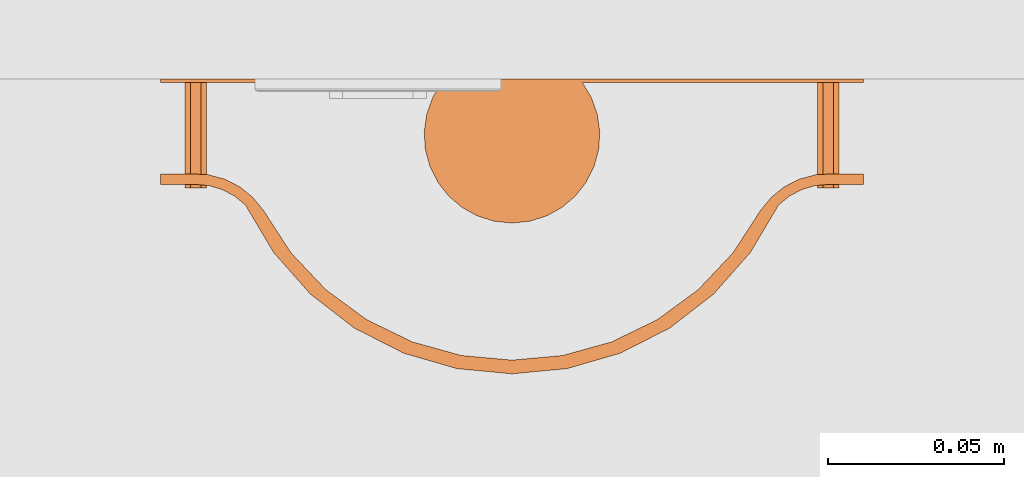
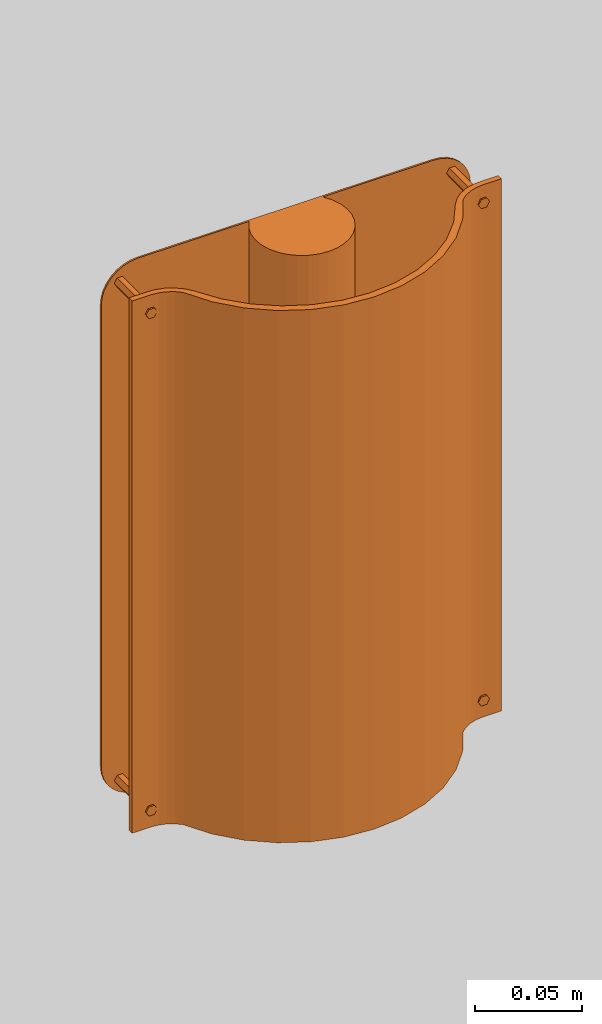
# One storey, part 33 of 48: 1 proxy.
"""IFC2X3 building model written with IfcOpenShell, lengths in inches."""

from ifc_helpers import new_model, entity, si_unit, converted_unit, derived_unit, money_unit, direction, frame, origin_with_axes, place, context, subcontext, project, spatial, faceted_brep, source, transform, mapped, type_object, element, save


model = new_model("IFC2X3")

# Units and contexts
model_context = context("Model", 3, precision=0.00039370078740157, world=origin_with_axes(), true_north=direction((0.0, 1.0)))
plan_context = context("Plan", 3, precision=0.00039370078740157, world=origin_with_axes(), true_north=direction((0.0, 1.0)))
body_context = subcontext(model_context, "Body", "Model", "MODEL_VIEW")
ifc_project = project(units=[converted_unit("LENGTHUNIT", "INCH", entity("IfcPositiveLengthMeasure", 0.0254), si_unit("LENGTHUNIT", "METRE"), dimensions=[1, 0, 0, 0, 0, 0, 0]), converted_unit("AREAUNIT", "SQUARE_FOOT", entity("IfcPositiveLengthMeasure", 0.09290304), si_unit("AREAUNIT", "SQUARE_METRE"), dimensions=[2, 0, 0, 0, 0, 0, 0]), si_unit("PLANEANGLEUNIT", "RADIAN"), si_unit("SOLIDANGLEUNIT", "STERADIAN"), money_unit("USD"), converted_unit("TIMEUNIT", "Year", entity("IfcTimeMeasure", 31557600.0), si_unit("TIMEUNIT", "SECOND"), dimensions=[0, 0, 1, 0, 0, 0, 0]), si_unit("MASSUNIT", "GRAM", prefix="KILO"), si_unit("THERMODYNAMICTEMPERATUREUNIT", "DEGREE_CELSIUS"), si_unit("LUMINOUSINTENSITYUNIT", "LUMEN"), si_unit("ENERGYUNIT", "JOULE", prefix="MEGA"), derived_unit("SPECIFICHEATCAPACITYUNIT", [(si_unit("ENERGYUNIT", "JOULE"), 1), (si_unit("MASSUNIT", "GRAM", prefix="KILO"), -1), (si_unit("THERMODYNAMICTEMPERATUREUNIT", "KELVIN"), -1)])], contexts=[model_context, plan_context])

# Site, building, storey
site_placement = place(None, origin_with_axes())
site = spatial("IfcSite", under=ifc_project, at=site_placement, Name="Site", CompositionType="ELEMENT")
building_placement = place(site_placement, origin_with_axes())
building = spatial("IfcBuilding", under=site, at=building_placement, Name="Building", CompositionType="ELEMENT")
storey_placement = place(building_placement, origin_with_axes())
storey = spatial("IfcBuildingStorey", under=building, at=storey_placement, Name="First Floor", CompositionType="ELEMENT", Elevation=0.0)

# Proxy
building_element_proxy_type = type_object("IfcBuildingElementProxyType", Name="Wall Lamp", PredefinedType="NOTDEFINED")
shared_shape = source(origin_with_axes(), body_context, "Body", "Brep", [
    faceted_brep([(3.9370078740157, -1.062992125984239, 0.0), (3.591991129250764, -1.063143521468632, 0.0), (3.591991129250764, -1.063143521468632, 11.99999999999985), (3.9370078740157, -1.062992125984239, 11.99999999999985), (3.9370078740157, -1.18110236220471, 0.0), (3.54330708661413, -1.18110236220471, 0.0), (3.389692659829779, -1.196232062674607, 0.0), (3.241981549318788, -1.241039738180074, 0.0), (3.105850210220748, -1.31380345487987, 0.0), (2.986530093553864, -1.411726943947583, 0.0), (2.669665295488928, -1.945564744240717, 0.0), (2.258517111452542, -2.410691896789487, 0.0), (1.767605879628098, -2.790681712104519, 0.0), (1.214268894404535, -3.072114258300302, 0.0), (0.6180481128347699, -3.245050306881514, 0.0), (0.0, -3.30338235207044, 0.0), (0.0, -3.14960629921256, 0.0), (0.5658852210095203, -3.098353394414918, 0.0), (1.113353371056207, -2.946262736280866, 0.0), (1.624586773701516, -2.698284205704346, 0.0), (2.082947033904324, -2.362488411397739, 0.0), (2.47351654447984, -1.949804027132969, 0.0), (2.783583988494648, -1.473662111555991, 0.0), (2.903069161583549, -1.326520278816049, 0.0), (3.050535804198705, -1.207436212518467, 0.0), (3.219538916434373, -1.121614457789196, 0.0), (3.402692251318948, -1.072805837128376, 0.0), (3.402692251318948, -1.072805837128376, 11.99999999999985), (3.219538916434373, -1.121614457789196, 11.99999999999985), (3.050535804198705, -1.207436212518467, 11.99999999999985), (2.903069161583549, -1.326520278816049, 11.99999999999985), (2.783583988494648, -1.473662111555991, 11.99999999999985), (2.47351654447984, -1.949804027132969, 11.99999999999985), (2.082947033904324, -2.362488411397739, 11.99999999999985), (1.624586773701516, -2.698284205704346, 11.99999999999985), (1.113353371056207, -2.946262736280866, 11.99999999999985), (0.5658852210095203, -3.098353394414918, 11.99999999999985), (0.0, -3.14960629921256, 11.99999999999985), (0.0, -3.30338235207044, 11.99999999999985), (0.6180481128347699, -3.245050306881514, 11.99999999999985), (1.214268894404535, -3.072114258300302, 11.99999999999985), (1.767605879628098, -2.790681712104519, 11.99999999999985), (2.258517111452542, -2.410691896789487, 11.99999999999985), (2.669665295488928, -1.945564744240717, 11.99999999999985), (2.986530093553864, -1.411726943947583, 11.99999999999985), (3.105850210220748, -1.31380345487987, 11.99999999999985), (3.241981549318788, -1.241039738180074, 11.99999999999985), (3.389692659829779, -1.196232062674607, 11.99999999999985), (3.54330708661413, -1.18110236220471, 11.99999999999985), (3.9370078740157, -1.18110236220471, 11.99999999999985)], [[[0, 1, 2, 3]], [[0, 4, 5, 6, 7, 8, 9, 10, 11, 12, 13, 14, 15, 16, 17, 18, 19, 20, 21, 22, 23, 24, 25, 26, 1]], [[1, 26, 27, 2]], [[3, 2, 27, 28, 29, 30, 31, 32, 33, 34, 35, 36, 37, 38, 39, 40, 41, 42, 43, 44, 45, 46, 47, 48, 49]], [[4, 0, 3, 49]], [[5, 4, 49, 48]], [[6, 5, 48, 47]], [[7, 6, 47, 46]], [[8, 7, 46, 45]], [[9, 8, 45, 44]], [[10, 9, 44, 43]], [[11, 10, 43, 42]], [[12, 11, 42, 41]], [[13, 12, 41, 40]], [[14, 13, 40, 39]], [[15, 14, 39, 38]], [[16, 15, 38, 37]], [[17, 16, 37, 36]], [[18, 17, 36, 35]], [[19, 18, 35, 34]], [[20, 19, 34, 33]], [[21, 20, 33, 32]], [[22, 21, 32, 31]], [[23, 22, 31, 30]], [[24, 23, 30, 29]], [[25, 24, 29, 28]], [[26, 25, 28, 27]]]),
    faceted_brep([(-3.9370078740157, -1.062992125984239, 0.0), (-3.9370078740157, -1.062992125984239, 11.99999999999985), (-3.591991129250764, -1.063143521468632, 11.99999999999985), (-3.591991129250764, -1.063143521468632, 0.0), (-3.9370078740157, -1.18110236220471, 0.0), (-3.9370078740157, -1.18110236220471, 11.99999999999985), (-3.54330708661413, -1.18110236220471, 11.99999999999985), (-3.389692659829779, -1.196232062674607, 11.99999999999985), (-3.241981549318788, -1.241039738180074, 11.99999999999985), (-3.105850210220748, -1.31380345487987, 11.99999999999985), (-2.986530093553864, -1.411726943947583, 11.99999999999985), (-2.669665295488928, -1.945564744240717, 11.99999999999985), (-2.258517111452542, -2.410691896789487, 11.99999999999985), (-1.767605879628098, -2.790681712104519, 11.99999999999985), (-1.214268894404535, -3.072114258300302, 11.99999999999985), (-0.6180481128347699, -3.245050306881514, 11.99999999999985), (0.0, -3.30338235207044, 11.99999999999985), (0.0, -3.14960629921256, 11.99999999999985), (-0.5658852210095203, -3.098353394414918, 11.99999999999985), (-1.113353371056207, -2.946262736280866, 11.99999999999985), (-1.624586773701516, -2.698284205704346, 11.99999999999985), (-2.082947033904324, -2.362488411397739, 11.99999999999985), (-2.47351654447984, -1.949804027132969, 11.99999999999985), (-2.783583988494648, -1.473662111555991, 11.99999999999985), (-2.903069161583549, -1.326520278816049, 11.99999999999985), (-3.050535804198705, -1.207436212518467, 11.99999999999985), (-3.219538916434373, -1.121614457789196, 11.99999999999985), (-3.402692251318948, -1.072805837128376, 11.99999999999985), (-3.402692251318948, -1.072805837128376, 0.0), (-3.219538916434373, -1.121614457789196, 0.0), (-3.050535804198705, -1.207436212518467, 0.0), (-2.903069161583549, -1.326520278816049, 0.0), (-2.783583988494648, -1.473662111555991, 0.0), (-2.47351654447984, -1.949804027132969, 0.0), (-2.082947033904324, -2.362488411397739, 0.0), (-1.624586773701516, -2.698284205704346, 0.0), (-1.113353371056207, -2.946262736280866, 0.0), (-0.5658852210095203, -3.098353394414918, 0.0), (0.0, -3.14960629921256, 0.0), (0.0, -3.30338235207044, 0.0), (-0.6180481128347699, -3.245050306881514, 0.0), (-1.214268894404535, -3.072114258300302, 0.0), (-1.767605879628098, -2.790681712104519, 0.0), (-2.258517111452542, -2.410691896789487, 0.0), (-2.669665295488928, -1.945564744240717, 0.0), (-2.986530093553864, -1.411726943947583, 0.0), (-3.105850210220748, -1.31380345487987, 0.0), (-3.241981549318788, -1.241039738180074, 0.0), (-3.389692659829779, -1.196232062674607, 0.0), (-3.54330708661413, -1.18110236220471, 0.0)], [[[0, 1, 2, 3]], [[4, 5, 1, 0]], [[1, 5, 6, 7, 8, 9, 10, 11, 12, 13, 14, 15, 16, 17, 18, 19, 20, 21, 22, 23, 24, 25, 26, 27, 2]], [[3, 2, 27, 28]], [[0, 3, 28, 29, 30, 31, 32, 33, 34, 35, 36, 37, 38, 39, 40, 41, 42, 43, 44, 45, 46, 47, 48, 49, 4]], [[49, 6, 5, 4]], [[48, 7, 6, 49]], [[47, 8, 7, 48]], [[46, 9, 8, 47]], [[45, 10, 9, 46]], [[44, 11, 10, 45]], [[43, 12, 11, 44]], [[42, 13, 12, 43]], [[41, 14, 13, 42]], [[40, 15, 14, 41]], [[39, 16, 15, 40]], [[38, 17, 16, 39]], [[37, 18, 17, 38]], [[36, 19, 18, 37]], [[35, 20, 19, 36]], [[34, 21, 20, 35]], [[33, 22, 21, 34]], [[32, 23, 22, 33]], [[31, 24, 23, 32]], [[30, 25, 24, 31]], [[29, 26, 25, 30]], [[28, 27, 26, 29]]]),
    faceted_brep([(3.14960629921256, 0.0, 0.0), (3.14960629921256, -0.039370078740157, 0.0), (-3.14960629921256, -0.039370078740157, 0.0), (-3.14960629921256, 0.0, 0.0), (3.303220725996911, 0.0, 0.01512970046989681), (3.303220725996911, -0.039370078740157, 0.01512970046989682), (3.450931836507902, -0.039370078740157, 0.05993737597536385), (3.587063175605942, -0.03937007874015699, 0.1327010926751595), (3.706383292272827, -0.03937007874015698, 0.230624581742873), (3.80430678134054, -0.03937007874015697, 0.3499446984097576), (3.877070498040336, -0.03937007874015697, 0.4860760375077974), (3.921878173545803, -0.03937007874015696, 0.633787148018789), (3.9370078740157, -0.03937007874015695, 0.78740157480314), (3.9370078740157, -0.03937007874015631, 11.21259842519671), (3.921878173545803, -0.0393700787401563, 11.36621285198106), (3.877070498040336, -0.03937007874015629, 11.51392396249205), (3.80430678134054, -0.03937007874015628, 11.65005530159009), (3.706383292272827, -0.03937007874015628, 11.76937541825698), (3.587063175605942, -0.03937007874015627, 11.86729890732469), (3.450931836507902, -0.03937007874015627, 11.94006262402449), (3.30322072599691, -0.03937007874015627, 11.98487029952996), (3.14960629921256, -0.03937007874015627, 11.99999999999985), (-3.14960629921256, -0.03937007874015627, 11.99999999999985), (-3.30322072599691, -0.03937007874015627, 11.98487029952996), (-3.450931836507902, -0.03937007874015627, 11.94006262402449), (-3.587063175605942, -0.03937007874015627, 11.86729890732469), (-3.706383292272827, -0.03937007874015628, 11.76937541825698), (-3.80430678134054, -0.03937007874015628, 11.65005530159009), (-3.877070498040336, -0.03937007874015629, 11.51392396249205), (-3.921878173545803, -0.0393700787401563, 11.36621285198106), (-3.9370078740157, -0.03937007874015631, 11.21259842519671), (-3.9370078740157, -0.03937007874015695, 0.7874015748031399), (-3.921878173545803, -0.03937007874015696, 0.6337871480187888), (-3.877070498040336, -0.03937007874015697, 0.4860760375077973), (-3.80430678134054, -0.03937007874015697, 0.3499446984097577), (-3.706383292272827, -0.03937007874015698, 0.2306245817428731), (-3.587063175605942, -0.03937007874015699, 0.1327010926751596), (-3.450931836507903, -0.039370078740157, 0.05993737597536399), (-3.303220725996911, -0.039370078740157, 0.01512970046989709), (-3.303220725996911, 0.0, 0.01512970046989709), (-3.450931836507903, 0.0, 0.05993737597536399), (-3.587063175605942, 0.0, 0.1327010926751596), (-3.706383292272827, 0.0, 0.2306245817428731), (-3.80430678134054, 0.0, 0.3499446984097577), (-3.877070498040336, 0.0, 0.4860760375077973), (-3.921878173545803, 0.0, 0.6337871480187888), (-3.9370078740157, 0.0, 0.7874015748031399), (-3.9370078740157, 0.0, 11.21259842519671), (-3.921878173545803, 0.0, 11.36621285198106), (-3.877070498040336, 0.0, 11.51392396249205), (-3.80430678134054, 0.0, 11.65005530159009), (-3.706383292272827, 0.0, 11.76937541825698), (-3.587063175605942, 0.0, 11.86729890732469), (-3.450931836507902, 0.0, 11.94006262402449), (-3.30322072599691, 0.0, 11.98487029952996), (-3.14960629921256, 0.0, 11.99999999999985), (3.14960629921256, 0.0, 11.99999999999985), (3.30322072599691, 0.0, 11.98487029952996), (3.450931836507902, 0.0, 11.94006262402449), (3.587063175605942, 0.0, 11.86729890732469), (3.706383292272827, 0.0, 11.76937541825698), (3.80430678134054, 0.0, 11.65005530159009), (3.877070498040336, 0.0, 11.51392396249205), (3.921878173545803, 0.0, 11.36621285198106), (3.9370078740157, 0.0, 11.21259842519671), (3.9370078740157, 0.0, 0.78740157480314), (3.921878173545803, 0.0, 0.633787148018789), (3.877070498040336, 0.0, 0.4860760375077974), (3.80430678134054, 0.0, 0.3499446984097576), (3.706383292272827, 0.0, 0.230624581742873), (3.587063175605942, 0.0, 0.1327010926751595), (3.450931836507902, 0.0, 0.05993737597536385)], [[[0, 1, 2, 3]], [[4, 5, 1, 0]], [[1, 5, 6, 7, 8, 9, 10, 11, 12, 13, 14, 15, 16, 17, 18, 19, 20, 21, 22, 23, 24, 25, 26, 27, 28, 29, 30, 31, 32, 33, 34, 35, 36, 37, 38, 2]], [[3, 2, 38, 39]], [[0, 3, 39, 40, 41, 42, 43, 44, 45, 46, 47, 48, 49, 50, 51, 52, 53, 54, 55, 56, 57, 58, 59, 60, 61, 62, 63, 64, 65, 66, 67, 68, 69, 70, 71, 4]], [[71, 6, 5, 4]], [[70, 7, 6, 71]], [[69, 8, 7, 70]], [[68, 9, 8, 69]], [[67, 10, 9, 68]], [[66, 11, 10, 67]], [[65, 12, 11, 66]], [[64, 13, 12, 65]], [[63, 14, 13, 64]], [[62, 15, 14, 63]], [[61, 16, 15, 62]], [[60, 17, 16, 61]], [[59, 18, 17, 60]], [[58, 19, 18, 59]], [[57, 20, 19, 58]], [[56, 21, 20, 57]], [[55, 22, 21, 56]], [[54, 23, 22, 55]], [[53, 24, 23, 54]], [[52, 25, 24, 53]], [[51, 26, 25, 52]], [[50, 27, 26, 51]], [[49, 28, 27, 50]], [[48, 29, 28, 49]], [[47, 30, 29, 48]], [[46, 31, 30, 47]], [[45, 32, 31, 46]], [[44, 33, 32, 45]], [[43, 34, 33, 44]], [[42, 35, 34, 43]], [[41, 36, 35, 42]], [[40, 37, 36, 41]], [[39, 38, 37, 40]]]),
    faceted_brep([(3.661417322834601, -0.03937007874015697, 0.39370078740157), (3.602362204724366, -0.03937007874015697, 0.4959872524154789), (3.602362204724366, -1.220472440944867, 0.495987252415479), (3.661417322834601, -1.220472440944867, 0.3937007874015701), (3.602362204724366, -0.03937007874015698, 0.291414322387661), (3.484251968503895, -0.03937007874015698, 0.2914143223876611), (3.425196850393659, -0.03937007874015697, 0.3937007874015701), (3.484251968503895, -0.03937007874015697, 0.495987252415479), (3.484251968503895, -1.220472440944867, 0.495987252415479), (3.425196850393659, -1.220472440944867, 0.3937007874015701), (3.484251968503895, -1.220472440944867, 0.2914143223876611), (3.602362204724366, -1.220472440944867, 0.2914143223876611)], [[[0, 1, 2, 3]], [[0, 4, 5, 6, 7, 1]], [[1, 7, 8, 2]], [[3, 2, 8, 9, 10, 11]], [[4, 0, 3, 11]], [[5, 4, 11, 10]], [[6, 5, 10, 9]], [[7, 6, 9, 8]]]),
    faceted_brep([(-3.425196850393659, -0.03937007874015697, 0.39370078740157), (-3.484251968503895, -0.03937007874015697, 0.4959872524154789), (-3.484251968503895, -1.220472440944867, 0.495987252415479), (-3.425196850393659, -1.220472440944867, 0.3937007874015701), (-3.484251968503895, -0.03937007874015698, 0.291414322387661), (-3.602362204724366, -0.03937007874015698, 0.2914143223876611), (-3.661417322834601, -0.03937007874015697, 0.3937007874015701), (-3.602362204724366, -0.03937007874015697, 0.495987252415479), (-3.602362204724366, -1.220472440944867, 0.495987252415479), (-3.661417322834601, -1.220472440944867, 0.3937007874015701), (-3.602362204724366, -1.220472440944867, 0.2914143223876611), (-3.484251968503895, -1.220472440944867, 0.2914143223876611)], [[[0, 1, 2, 3]], [[0, 4, 5, 6, 7, 1]], [[1, 7, 8, 2]], [[3, 2, 8, 9, 10, 11]], [[4, 0, 3, 11]], [[5, 4, 11, 10]], [[6, 5, 10, 9]], [[7, 6, 9, 8]]]),
    faceted_brep([(3.661417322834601, -0.03937007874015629, 11.60629921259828), (3.602362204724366, -0.03937007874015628, 11.70858567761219), (3.602362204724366, -1.220472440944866, 11.70858567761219), (3.661417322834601, -1.220472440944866, 11.60629921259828), (3.602362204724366, -0.03937007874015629, 11.50401274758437), (3.484251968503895, -0.03937007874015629, 11.50401274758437), (3.425196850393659, -0.03937007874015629, 11.60629921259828), (3.484251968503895, -0.03937007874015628, 11.70858567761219), (3.484251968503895, -1.220472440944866, 11.70858567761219), (3.425196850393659, -1.220472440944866, 11.60629921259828), (3.484251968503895, -1.220472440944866, 11.50401274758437), (3.602362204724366, -1.220472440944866, 11.50401274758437)], [[[0, 1, 2, 3]], [[0, 4, 5, 6, 7, 1]], [[1, 7, 8, 2]], [[3, 2, 8, 9, 10, 11]], [[4, 0, 3, 11]], [[5, 4, 11, 10]], [[6, 5, 10, 9]], [[7, 6, 9, 8]]]),
    faceted_brep([(-3.425196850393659, -0.03937007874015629, 11.60629921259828), (-3.484251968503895, -0.03937007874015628, 11.70858567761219), (-3.484251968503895, -1.220472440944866, 11.70858567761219), (-3.425196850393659, -1.220472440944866, 11.60629921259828), (-3.484251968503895, -0.03937007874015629, 11.50401274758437), (-3.602362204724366, -0.03937007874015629, 11.50401274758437), (-3.661417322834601, -0.03937007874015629, 11.60629921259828), (-3.602362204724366, -0.03937007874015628, 11.70858567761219), (-3.602362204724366, -1.220472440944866, 11.70858567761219), (-3.661417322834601, -1.220472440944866, 11.60629921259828), (-3.602362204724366, -1.220472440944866, 11.50401274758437), (-3.484251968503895, -1.220472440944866, 11.50401274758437)], [[[0, 1, 2, 3]], [[0, 4, 5, 6, 7, 1]], [[1, 7, 8, 2]], [[3, 2, 8, 9, 10, 11]], [[4, 0, 3, 11]], [[5, 4, 11, 10]], [[6, 5, 10, 9]], [[7, 6, 9, 8]]]),
    faceted_brep([(-0.7874015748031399, -0.039370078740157, 0.0), (-0.8895785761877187, -0.2087302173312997, 0.0), (-0.8895785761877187, -0.2087302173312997, 0.984251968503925), (-0.7874015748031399, -0.039370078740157, 0.984251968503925), (0.78740157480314, -0.039370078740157, 0.0), (0.889578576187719, -0.2087302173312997, 0.0), (0.9558299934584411, -0.3951001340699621, 0.0), (0.9834802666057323, -0.5909532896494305, 0.0), (0.971412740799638, -0.7883801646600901, 0.0), (0.9201147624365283, -0.9794076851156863, 0.0), (0.8316579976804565, -1.15632121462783, 0.0), (0.7096147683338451, -1.311976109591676, 0.0), (0.5589137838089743, -1.440086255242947, 0.0), (0.3856410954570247, -1.535477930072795, 0.0), (0.1967943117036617, -1.594298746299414, 0.0), (0.0, -1.614173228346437, 0.0), (-0.1967943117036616, -1.594298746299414, 0.0), (-0.3856410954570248, -1.535477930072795, 0.0), (-0.5589137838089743, -1.440086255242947, 0.0), (-0.7096147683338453, -1.311976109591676, 0.0), (-0.8316579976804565, -1.15632121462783, 0.0), (-0.9201147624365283, -0.979407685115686, 0.0), (-0.971412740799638, -0.7883801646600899, 0.0), (-0.9834802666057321, -0.5909532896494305, 0.0), (-0.9558299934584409, -0.3951001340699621, 0.0), (-0.9558299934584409, -0.3951001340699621, 0.984251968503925), (-0.9834802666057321, -0.5909532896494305, 0.984251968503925), (-0.971412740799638, -0.7883801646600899, 0.984251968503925), (-0.9201147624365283, -0.979407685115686, 0.984251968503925), (-0.8316579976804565, -1.15632121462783, 0.984251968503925), (-0.7096147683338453, -1.311976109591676, 0.984251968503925), (-0.5589137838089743, -1.440086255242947, 0.984251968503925), (-0.3856410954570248, -1.535477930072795, 0.984251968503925), (-0.1967943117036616, -1.594298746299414, 0.984251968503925), (0.0, -1.614173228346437, 0.984251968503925), (0.1967943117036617, -1.594298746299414, 0.984251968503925), (0.3856410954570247, -1.535477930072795, 0.984251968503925), (0.5589137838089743, -1.440086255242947, 0.984251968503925), (0.7096147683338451, -1.311976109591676, 0.984251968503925), (0.8316579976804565, -1.15632121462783, 0.984251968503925), (0.9201147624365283, -0.9794076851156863, 0.984251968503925), (0.971412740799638, -0.7883801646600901, 0.984251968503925), (0.9834802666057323, -0.5909532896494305, 0.984251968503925), (0.9558299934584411, -0.3951001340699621, 0.984251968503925), (0.889578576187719, -0.2087302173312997, 0.984251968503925), (0.78740157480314, -0.039370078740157, 0.984251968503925)], [[[0, 1, 2, 3]], [[0, 4, 5, 6, 7, 8, 9, 10, 11, 12, 13, 14, 15, 16, 17, 18, 19, 20, 21, 22, 23, 24, 1]], [[1, 24, 25, 2]], [[3, 2, 25, 26, 27, 28, 29, 30, 31, 32, 33, 34, 35, 36, 37, 38, 39, 40, 41, 42, 43, 44, 45]], [[4, 0, 3, 45]], [[5, 4, 45, 44]], [[6, 5, 44, 43]], [[7, 6, 43, 42]], [[8, 7, 42, 41]], [[9, 8, 41, 40]], [[10, 9, 40, 39]], [[11, 10, 39, 38]], [[12, 11, 38, 37]], [[13, 12, 37, 36]], [[14, 13, 36, 35]], [[15, 14, 35, 34]], [[16, 15, 34, 33]], [[17, 16, 33, 32]], [[18, 17, 32, 31]], [[19, 18, 31, 30]], [[20, 19, 30, 29]], [[21, 20, 29, 28]], [[22, 21, 28, 27]], [[23, 22, 27, 26]], [[24, 23, 26, 25]]]),
    faceted_brep([(-0.7874015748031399, -0.039370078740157, 11.01574803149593), (-0.8895785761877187, -0.2087302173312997, 11.01574803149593), (-0.8895785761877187, -0.2087302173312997, 11.99999999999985), (-0.7874015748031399, -0.039370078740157, 11.99999999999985), (0.78740157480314, -0.039370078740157, 11.01574803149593), (0.889578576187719, -0.2087302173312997, 11.01574803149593), (0.9558299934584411, -0.3951001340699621, 11.01574803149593), (0.9834802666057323, -0.5909532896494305, 11.01574803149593), (0.971412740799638, -0.7883801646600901, 11.01574803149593), (0.9201147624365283, -0.9794076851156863, 11.01574803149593), (0.8316579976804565, -1.15632121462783, 11.01574803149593), (0.7096147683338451, -1.311976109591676, 11.01574803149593), (0.5589137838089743, -1.440086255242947, 11.01574803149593), (0.3856410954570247, -1.535477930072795, 11.01574803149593), (0.1967943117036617, -1.594298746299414, 11.01574803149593), (0.0, -1.614173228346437, 11.01574803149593), (-0.1967943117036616, -1.594298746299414, 11.01574803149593), (-0.3856410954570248, -1.535477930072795, 11.01574803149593), (-0.5589137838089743, -1.440086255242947, 11.01574803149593), (-0.7096147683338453, -1.311976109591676, 11.01574803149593), (-0.8316579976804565, -1.15632121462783, 11.01574803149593), (-0.9201147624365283, -0.979407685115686, 11.01574803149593), (-0.971412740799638, -0.7883801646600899, 11.01574803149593), (-0.9834802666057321, -0.5909532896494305, 11.01574803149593), (-0.9558299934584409, -0.3951001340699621, 11.01574803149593), (-0.9558299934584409, -0.3951001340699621, 11.99999999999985), (-0.9834802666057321, -0.5909532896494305, 11.99999999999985), (-0.971412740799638, -0.7883801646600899, 11.99999999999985), (-0.9201147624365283, -0.979407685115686, 11.99999999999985), (-0.8316579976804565, -1.15632121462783, 11.99999999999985), (-0.7096147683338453, -1.311976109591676, 11.99999999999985), (-0.5589137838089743, -1.440086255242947, 11.99999999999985), (-0.3856410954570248, -1.535477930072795, 11.99999999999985), (-0.1967943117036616, -1.594298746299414, 11.99999999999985), (0.0, -1.614173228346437, 11.99999999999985), (0.1967943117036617, -1.594298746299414, 11.99999999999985), (0.3856410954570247, -1.535477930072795, 11.99999999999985), (0.5589137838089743, -1.440086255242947, 11.99999999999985), (0.7096147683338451, -1.311976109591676, 11.99999999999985), (0.8316579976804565, -1.15632121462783, 11.99999999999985), (0.9201147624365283, -0.9794076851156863, 11.99999999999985), (0.971412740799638, -0.7883801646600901, 11.99999999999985), (0.9834802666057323, -0.5909532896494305, 11.99999999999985), (0.9558299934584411, -0.3951001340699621, 11.99999999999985), (0.889578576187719, -0.2087302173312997, 11.99999999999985), (0.78740157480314, -0.039370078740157, 11.99999999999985)], [[[0, 1, 2, 3]], [[0, 4, 5, 6, 7, 8, 9, 10, 11, 12, 13, 14, 15, 16, 17, 18, 19, 20, 21, 22, 23, 24, 1]], [[1, 24, 25, 2]], [[3, 2, 25, 26, 27, 28, 29, 30, 31, 32, 33, 34, 35, 36, 37, 38, 39, 40, 41, 42, 43, 44, 45]], [[4, 0, 3, 45]], [[5, 4, 45, 44]], [[6, 5, 44, 43]], [[7, 6, 43, 42]], [[8, 7, 42, 41]], [[9, 8, 41, 40]], [[10, 9, 40, 39]], [[11, 10, 39, 38]], [[12, 11, 38, 37]], [[13, 12, 37, 36]], [[14, 13, 36, 35]], [[15, 14, 35, 34]], [[16, 15, 34, 33]], [[17, 16, 33, 32]], [[18, 17, 32, 31]], [[19, 18, 31, 30]], [[20, 19, 30, 29]], [[21, 20, 29, 28]], [[22, 21, 28, 27]], [[23, 22, 27, 26]], [[24, 23, 26, 25]]]),
    faceted_brep([(-0.7874015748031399, -0.039370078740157, 0.984251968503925), (-0.8895785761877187, -0.2087302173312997, 0.984251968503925), (-0.8895785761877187, -0.2087302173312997, 11.01574803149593), (-0.7874015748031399, -0.039370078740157, 11.01574803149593), (0.78740157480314, -0.039370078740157, 0.984251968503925), (0.889578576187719, -0.2087302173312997, 0.984251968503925), (0.9558299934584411, -0.3951001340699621, 0.984251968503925), (0.9834802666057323, -0.5909532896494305, 0.984251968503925), (0.971412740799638, -0.7883801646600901, 0.984251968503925), (0.9201147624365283, -0.9794076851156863, 0.984251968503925), (0.8316579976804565, -1.15632121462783, 0.984251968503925), (0.7096147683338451, -1.311976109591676, 0.984251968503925), (0.5589137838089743, -1.440086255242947, 0.984251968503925), (0.3856410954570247, -1.535477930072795, 0.984251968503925), (0.1967943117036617, -1.594298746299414, 0.984251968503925), (0.0, -1.614173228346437, 0.984251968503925), (-0.1967943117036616, -1.594298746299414, 0.984251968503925), (-0.3856410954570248, -1.535477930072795, 0.984251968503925), (-0.5589137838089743, -1.440086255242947, 0.984251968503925), (-0.7096147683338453, -1.311976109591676, 0.984251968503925), (-0.8316579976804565, -1.15632121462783, 0.984251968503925), (-0.9201147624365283, -0.979407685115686, 0.984251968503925), (-0.971412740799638, -0.7883801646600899, 0.984251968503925), (-0.9834802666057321, -0.5909532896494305, 0.984251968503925), (-0.9558299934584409, -0.3951001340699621, 0.984251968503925), (-0.9558299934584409, -0.3951001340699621, 11.01574803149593), (-0.9834802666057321, -0.5909532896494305, 11.01574803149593), (-0.971412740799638, -0.7883801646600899, 11.01574803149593), (-0.9201147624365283, -0.979407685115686, 11.01574803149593), (-0.8316579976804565, -1.15632121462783, 11.01574803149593), (-0.7096147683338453, -1.311976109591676, 11.01574803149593), (-0.5589137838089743, -1.440086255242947, 11.01574803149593), (-0.3856410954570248, -1.535477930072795, 11.01574803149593), (-0.1967943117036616, -1.594298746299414, 11.01574803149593), (0.0, -1.614173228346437, 11.01574803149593), (0.1967943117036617, -1.594298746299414, 11.01574803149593), (0.3856410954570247, -1.535477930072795, 11.01574803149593), (0.5589137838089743, -1.440086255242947, 11.01574803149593), (0.7096147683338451, -1.311976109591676, 11.01574803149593), (0.8316579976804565, -1.15632121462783, 11.01574803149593), (0.9201147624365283, -0.9794076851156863, 11.01574803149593), (0.971412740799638, -0.7883801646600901, 11.01574803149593), (0.9834802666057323, -0.5909532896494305, 11.01574803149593), (0.9558299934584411, -0.3951001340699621, 11.01574803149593), (0.889578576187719, -0.2087302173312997, 11.01574803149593), (0.78740157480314, -0.039370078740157, 11.01574803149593)], [[[0, 1, 2, 3]], [[0, 4, 5, 6, 7, 8, 9, 10, 11, 12, 13, 14, 15, 16, 17, 18, 19, 20, 21, 22, 23, 24, 1]], [[1, 24, 25, 2]], [[3, 2, 25, 26, 27, 28, 29, 30, 31, 32, 33, 34, 35, 36, 37, 38, 39, 40, 41, 42, 43, 44, 45]], [[4, 0, 3, 45]], [[5, 4, 45, 44]], [[6, 5, 44, 43]], [[7, 6, 43, 42]], [[8, 7, 42, 41]], [[9, 8, 41, 40]], [[10, 9, 40, 39]], [[11, 10, 39, 38]], [[12, 11, 38, 37]], [[13, 12, 37, 36]], [[14, 13, 36, 35]], [[15, 14, 35, 34]], [[16, 15, 34, 33]], [[17, 16, 33, 32]], [[18, 17, 32, 31]], [[19, 18, 31, 30]], [[20, 19, 30, 29]], [[21, 20, 29, 28]], [[22, 21, 28, 27]], [[23, 22, 27, 26]], [[24, 23, 26, 25]]]),
])
proxy_placement = place(storey_placement, frame((126.5057760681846, 357.499999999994, 58.99999999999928), z_axis=(0.0, 0.0, 1.0), x_axis=(1.0, 0.0, 0.0)))
element("IfcBuildingElementProxy", 1, at=proxy_placement, inside=storey, type_object=building_element_proxy_type, Name="L-17", context=body_context, shape_type="MappedRepresentation", body=[
    mapped(shared_shape, transform((0.0, 0.0, 0.0))),
])

save(model, "model.ifc")
